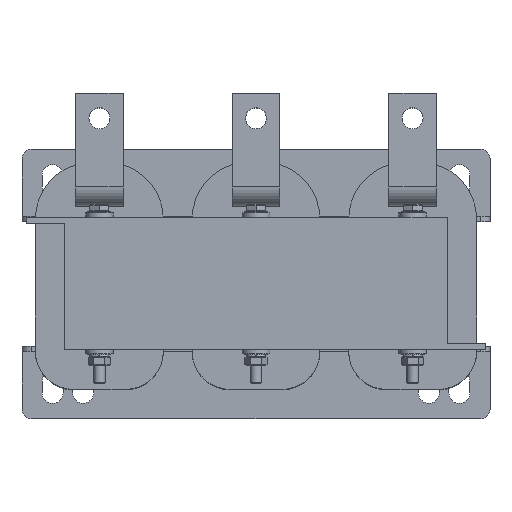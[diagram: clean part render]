
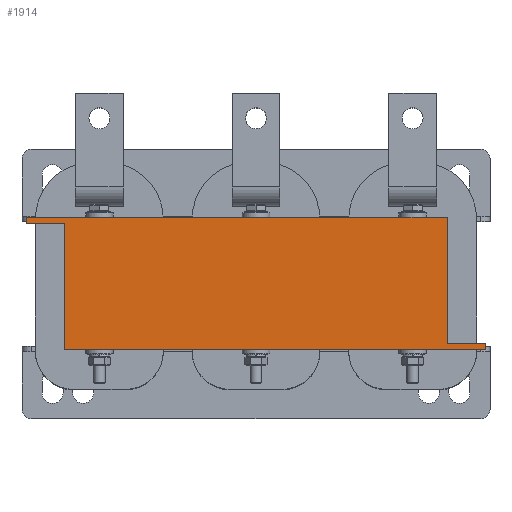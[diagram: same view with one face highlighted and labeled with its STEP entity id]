
A CAD part, top view. The second image highlights one B-rep face of the part: STEP entity #1914.
In plain terms, the highlighted planar face has unit normal (0, 0, 1).
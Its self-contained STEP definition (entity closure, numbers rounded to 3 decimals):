
#1914=ADVANCED_FACE('',(#2328),#2330,.T.);
#2328=FACE_BOUND('',#2329,.T.);
#2329=EDGE_LOOP('',(#3410,#3411,#3412,#3413,#3414,#3415,#3416,#3417));
#2330=PLANE('',#2331);
#2331=AXIS2_PLACEMENT_3D('',#2332,#2333,#2334);
#2332=CARTESIAN_POINT('',(0.,0.,38.));
#2333=DIRECTION('',(0.,0.,1.));
#2334=DIRECTION('',(-1.,0.,0.));
#3410=ORIENTED_EDGE('',*,*,#3999,.T.);
#3411=ORIENTED_EDGE('',*,*,#4021,.T.);
#3412=ORIENTED_EDGE('',*,*,#3991,.T.);
#3413=ORIENTED_EDGE('',*,*,#4022,.T.);
#3414=ORIENTED_EDGE('',*,*,#3980,.T.);
#3415=ORIENTED_EDGE('',*,*,#4023,.T.);
#3416=ORIENTED_EDGE('',*,*,#3972,.T.);
#3417=ORIENTED_EDGE('',*,*,#4020,.T.);
#3972=EDGE_CURVE('',#4350,#4348,#4351,.T.);
#3980=EDGE_CURVE('',#4366,#4364,#4367,.T.);
#3991=EDGE_CURVE('',#4388,#4386,#4389,.T.);
#3999=EDGE_CURVE('',#4404,#4402,#4405,.T.);
#4020=EDGE_CURVE('',#4348,#4404,#4433,.T.);
#4021=EDGE_CURVE('',#4402,#4388,#4434,.T.);
#4022=EDGE_CURVE('',#4386,#4366,#4435,.T.);
#4023=EDGE_CURVE('',#4364,#4350,#4436,.T.);
#4348=VERTEX_POINT('',#5028);
#4350=VERTEX_POINT('',#5032);
#4351=LINE('',#5033,#5034);
#4364=VERTEX_POINT('',#5062);
#4366=VERTEX_POINT('',#5066);
#4367=LINE('',#5067,#5068);
#4386=VERTEX_POINT('',#5111);
#4388=VERTEX_POINT('',#5115);
#4389=LINE('',#5116,#5117);
#4402=VERTEX_POINT('',#5145);
#4404=VERTEX_POINT('',#5149);
#4405=LINE('',#5150,#5151);
#4433=LINE('',#5225,#5226);
#4434=LINE('',#5228,#5229);
#4435=LINE('',#5231,#5232);
#4436=LINE('',#5234,#5235);
#5028=CARTESIAN_POINT('',(100.,-31.5,38.));
#5032=CARTESIAN_POINT('',(120.,-31.5,38.));
#5033=CARTESIAN_POINT('',(120.,-31.5,38.));
#5034=VECTOR('',#5035,1.);
#5035=DIRECTION('',(-1.,0.,0.));
#5062=CARTESIAN_POINT('',(120.,-34.5,38.));
#5066=CARTESIAN_POINT('',(-100.,-34.5,38.));
#5067=CARTESIAN_POINT('',(-100.,-34.5,38.));
#5068=VECTOR('',#5069,1.);
#5069=DIRECTION('',(1.,0.,0.));
#5111=CARTESIAN_POINT('',(-100.,31.5,38.));
#5115=CARTESIAN_POINT('',(-120.,31.5,38.));
#5116=CARTESIAN_POINT('',(-120.,31.5,38.));
#5117=VECTOR('',#5118,1.);
#5118=DIRECTION('',(1.,0.,0.));
#5145=CARTESIAN_POINT('',(-120.,34.5,38.));
#5149=CARTESIAN_POINT('',(100.,34.5,38.));
#5150=CARTESIAN_POINT('',(100.,34.5,38.));
#5151=VECTOR('',#5152,1.);
#5152=DIRECTION('',(-1.,0.,0.));
#5225=CARTESIAN_POINT('',(100.,-31.5,38.));
#5226=VECTOR('',#5227,1.);
#5227=DIRECTION('',(0.,1.,0.));
#5228=CARTESIAN_POINT('',(-120.,34.5,38.));
#5229=VECTOR('',#5230,1.);
#5230=DIRECTION('',(0.,-1.,0.));
#5231=CARTESIAN_POINT('',(-100.,31.5,38.));
#5232=VECTOR('',#5233,1.);
#5233=DIRECTION('',(0.,-1.,0.));
#5234=CARTESIAN_POINT('',(120.,-34.5,38.));
#5235=VECTOR('',#5236,1.);
#5236=DIRECTION('',(0.,1.,0.));
